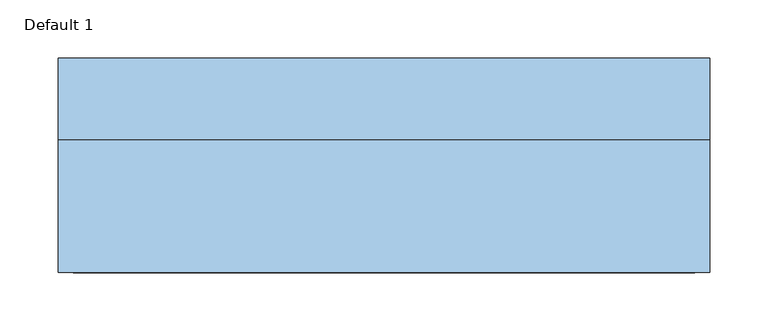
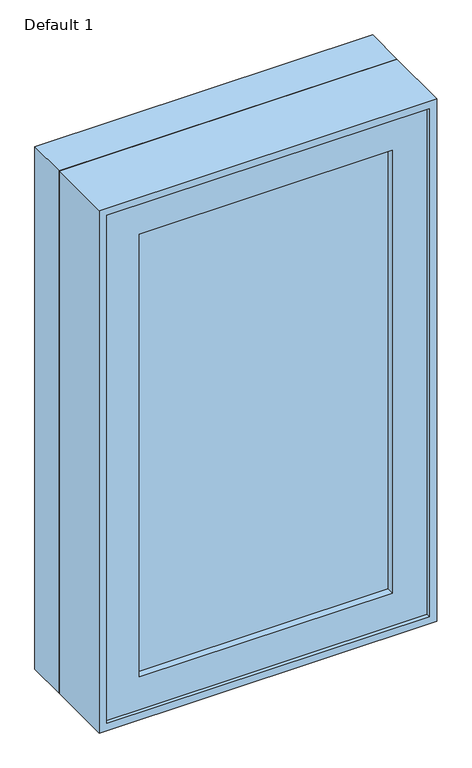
"""IFC4 building model written with IfcOpenShell, lengths in millimetres: window geometry, Planitar-Casement-Single_Left : Default 1."""

from ifc_helpers import new_model, si_unit, frame, origin, place, context, project, spatial, polyline, outline, extrude, faceted_brep, source, transform, mapped, element, save


def default_1_fa66b400(model_context):
    return source(origin(), model_context, "Body", "SolidModel", [
        extrude(outline(polyline([(209.55, -82.55), (-209.55, -82.55), (-209.55, -76.2), (209.55, -76.2), (209.55, -82.55)])), frame((0.0, 0.0, 984.25), z_axis=(0.0, 0.0, 1.0), x_axis=(1.0, 0.0, 0.0)), (0.0, 0.0, 1.0), 774.7),
        extrude(outline(polyline([(-209.55, -63.5), (209.55, -63.5), (209.55, -69.85), (-209.55, -69.85), (-209.55, -63.5)])), frame((0.0, 0.0, 984.25), z_axis=(0.0, 0.0, 1.0), x_axis=(1.0, 0.0, 0.0)), (0.0, 0.0, 1.0), 774.7),
        extrude(outline(polyline([(1816.1, 266.7), (1816.1, -266.7), (927.1, -266.7), (927.1, 266.7), (1816.1, 266.7)]), holes=[polyline([(1758.95, -209.55), (1758.95, 209.55), (984.25, 209.55), (984.25, -209.55), (1758.95, -209.55)])]), frame((0.0, -95.25, 0.0), z_axis=(0.0, 1.0, 0.0), x_axis=(0.0, 0.0, 1.0)), (0.0, 0.0, 1.0), 44.45),
        extrude(outline(polyline([(1828.8, -279.4), (914.4, -279.4), (914.4, 279.4), (1828.8, 279.4), (1828.8, -279.4)]), holes=[polyline([(1809.75, 260.35), (933.45, 260.35), (933.45, -260.35), (1809.75, -260.35), (1809.75, 260.35)])]), frame((0.0, 12.7, 0.0), z_axis=(0.0, 1.0, 0.0), x_axis=(0.0, 0.0, 1.0)), (0.0, 0.0, 1.0), 69.85),
        faceted_brep([(247.65, -50.8, 1797.05), (-247.65, -50.8, 1797.05), (-247.65, 12.7, 1797.05), (247.65, 12.7, 1797.05), (266.7, -101.6, 1816.1), (-266.7, -101.6, 1816.1), (-266.7, -50.8, 1816.1), (266.7, -50.8, 1816.1), (279.4, 12.7, 1828.8), (-279.4, 12.7, 1828.8), (-279.4, -101.6, 1828.8), (279.4, -101.6, 1828.8), (-247.65, -50.8, 946.15), (-247.65, 12.7, 946.15), (-266.7, -101.6, 927.1), (-266.7, -50.8, 927.1), (-279.4, 12.7, 914.4), (-279.4, -101.6, 914.4), (247.65, -50.8, 946.15), (247.65, 12.7, 946.15), (266.7, -101.6, 927.1), (266.7, -50.8, 927.1), (279.4, 12.7, 914.4), (279.4, -101.6, 914.4)], [[[0, 1, 2, 3]], [[4, 5, 6, 7]], [[8, 9, 10, 11]], [[1, 12, 13, 2]], [[5, 14, 15, 6]], [[9, 16, 17, 10]], [[12, 18, 19, 13]], [[14, 20, 21, 15]], [[16, 22, 23, 17]], [[9, 8, 22, 16], [3, 2, 13, 19]], [[18, 0, 3, 19]], [[7, 6, 15, 21], [1, 0, 18, 12]], [[20, 4, 7, 21]], [[22, 8, 11, 23]], [[11, 10, 17, 23], [5, 4, 20, 14]]]),
    ])


if __name__ == "__main__":
    model = new_model("IFC4")
    model_context = context("Model", 3, world=origin())
    ifc_project = project(units=[si_unit("LENGTHUNIT", "METRE", prefix="MILLI")], contexts=[model_context])
    site = spatial("IfcSite", under=ifc_project)
    building = spatial("IfcBuilding", under=site)
    placement = place(None, origin())
    default_1_shape = default_1_fa66b400(model_context)
    element("IfcWindow", 1, ObjectType="Planitar-Casement-Single_Left : Default 1", at=placement, inside=building, context=model_context, shape_type="MappedRepresentation", body=[
        mapped(default_1_shape, transform((0.0, 0.0, 0.0), x_axis=(1.0, 0.0, 0.0), y_axis=(0.0, 1.0, 0.0), z_axis=(0.0, 0.0, 1.0))),
    ])
    save(model, "model.ifc")
